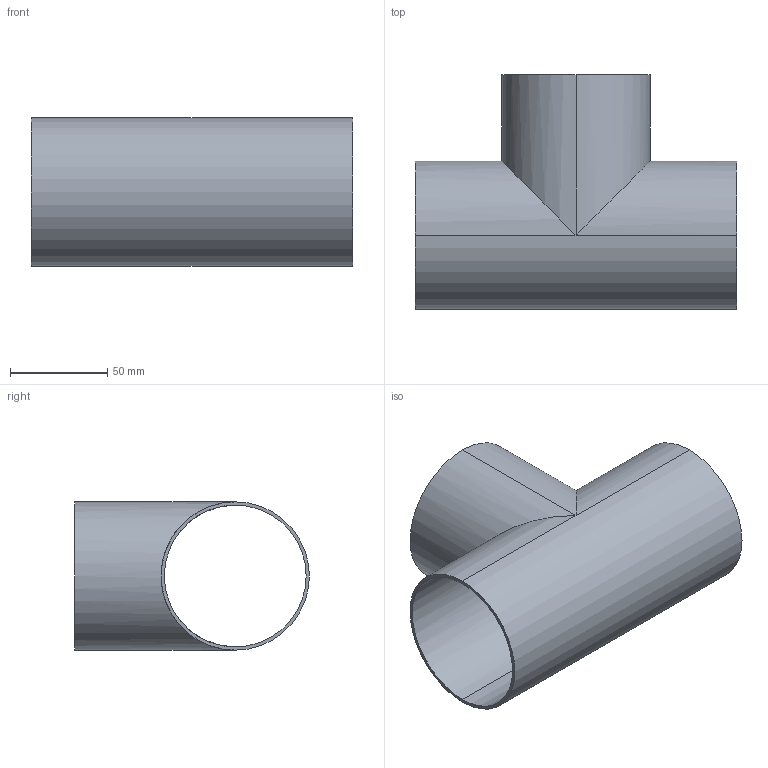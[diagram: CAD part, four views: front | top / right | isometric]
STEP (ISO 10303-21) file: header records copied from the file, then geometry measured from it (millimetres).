
FILE_DESCRIPTION (( 'STEP AP203' ), '1' );
FILE_NAME ('V7W3.0.STEP', '2018-05-11T15:08:30', ( 'vneprd' ), ( 'Microsoft' ), 'SwSTEP 2.0', 'SolidWorks 2014', '' );
FILE_SCHEMA (( 'CONFIG_CONTROL_DESIGN' ));
Length unit declared in the file: inch
Products named in the file (1): V7W3.0
Bounding box: 165.1 x 120.65 x 76.2 mm (x, y, z)
Volume: 77404.4 mm3; surface area: 94919.4 mm2
Topology: 1 solids, 1 shells, 13 faces, 28 edges, 16 vertices
Faces by surface type: cylinder 10, plane 3
Entity records: 437 total; most frequent: CARTESIAN_POINT 70, DIRECTION 64, ORIENTED_EDGE 56, EDGE_CURVE 28, AXIS2_PLACEMENT_3D 26, VERTEX_POINT 16, EDGE_LOOP 16, ADVANCED_FACE 13
